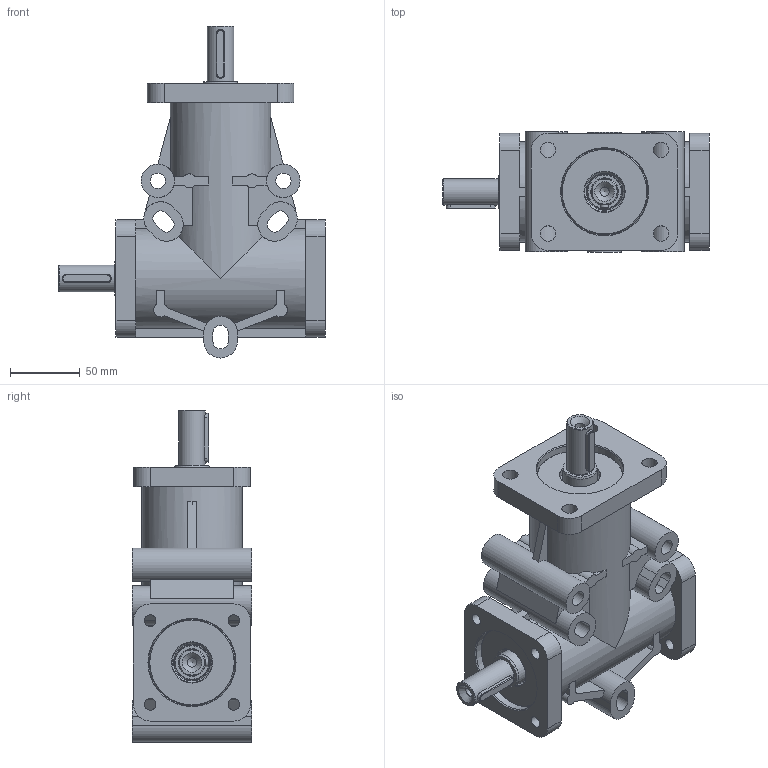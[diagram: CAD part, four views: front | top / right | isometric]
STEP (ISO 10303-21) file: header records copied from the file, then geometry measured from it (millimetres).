
FILE_DESCRIPTION((''),'2;1');
FILE_NAME('O:\Pietro\R19 FIG.1C - 2A.stp','2014-04-14T19:20:48',('p.fagiolino'),(''),'Autodesk Inventor 2012','Autodesk Inventor 2012','');
FILE_SCHEMA(('AUTOMOTIVE_DESIGN { 1 0 10303 214 1 1 1 1 }'));
Length unit declared in the file: millimetre
Products named in the file (1): FIGURINO R19 FIG.1C - 2A
Bounding box: 191 x 86 x 238 mm (x, y, z)
Volume: 717910.9 mm3; surface area: 224808.1 mm2
Topology: 3 solids, 5 shells, 289 faces, 773 edges, 494 vertices
Faces by surface type: plane 159, cylinder 89, cone 35, torus 6
Full cylindrical faces by diameter (mm): 6.647 x2, 8.376 x8, 11 x6, 19 x2, 24 x2, 25 x4, 28.75 x2, 30.438 x2, 58.6 x2, 58.875 x1, 62 x4, 72 x1
Entity records: 9178 total; most frequent: CARTESIAN_POINT 1898, DIRECTION 1476, ORIENTED_EDGE 1336, EDGE_CURVE 668, AXIS2_PLACEMENT_3D 556, VERTEX_POINT 462, EDGE_LOOP 414, VECTOR 364
